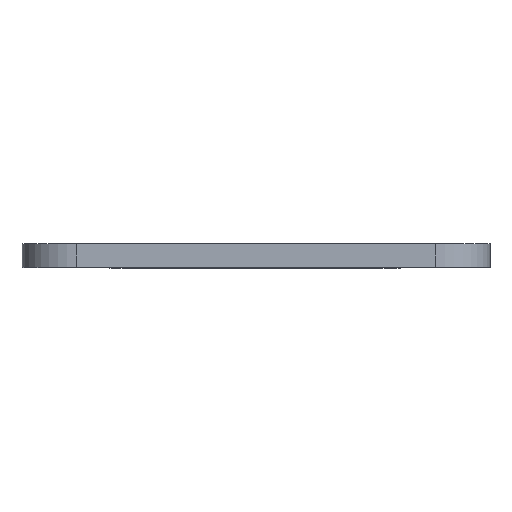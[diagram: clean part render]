
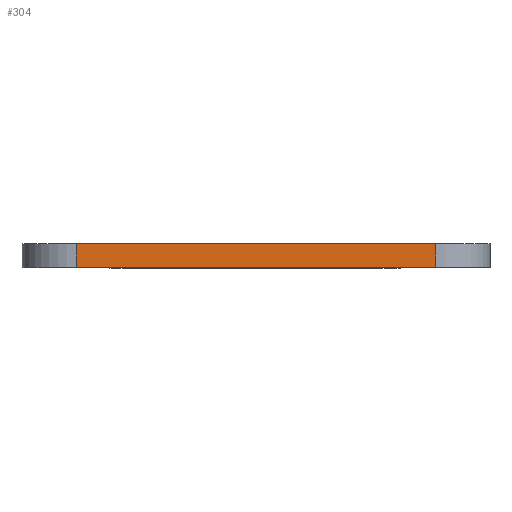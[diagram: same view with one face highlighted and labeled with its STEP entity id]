
A CAD part, top view. The second image highlights one B-rep face of the part: STEP entity #304.
In plain terms, the highlighted planar face has unit normal (0, 0, 1).
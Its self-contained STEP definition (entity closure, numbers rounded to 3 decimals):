
#77 = VECTOR ( 'NONE', #1211, 1000. ) ;
#95 = EDGE_CURVE ( 'NONE', #3197, #2057, #790, .T. ) ;
#124 = FACE_OUTER_BOUND ( 'NONE', #2588, .T. ) ;
#159 = PLANE ( 'NONE',  #2268 ) ;
#202 = VECTOR ( 'NONE', #1377, 1000. ) ;
#272 = LINE ( 'NONE', #1646, #649 ) ;
#304 = ADVANCED_FACE ( 'NONE', ( #124 ), #159, .F. ) ;
#338 = VERTEX_POINT ( 'NONE', #2555 ) ;
#649 = VECTOR ( 'NONE', #843, 1000. ) ;
#780 = LINE ( 'NONE', #956, #77 ) ;
#790 = LINE ( 'NONE', #2455, #1410 ) ;
#843 = DIRECTION ( 'NONE',  ( 0., -1., 0. ) ) ;
#908 = LINE ( 'NONE', #2682, #202 ) ;
#956 = CARTESIAN_POINT ( 'NONE',  ( -13.032, 27.592, 187.895 ) ) ;
#965 = CARTESIAN_POINT ( 'NONE',  ( -13.032, 32.592, 187.895 ) ) ;
#1211 = DIRECTION ( 'NONE',  ( 1., 0., 0. ) ) ;
#1219 = DIRECTION ( 'NONE',  ( 0., 0., -1. ) ) ;
#1377 = DIRECTION ( 'NONE',  ( 1., 0., 0. ) ) ;
#1384 = ORIENTED_EDGE ( 'NONE', *, *, #1979, .T. ) ;
#1410 = VECTOR ( 'NONE', #1947, 1000. ) ;
#1646 = CARTESIAN_POINT ( 'NONE',  ( 25.302, 32.592, 187.895 ) ) ;
#1740 = EDGE_CURVE ( 'NONE', #3197, #338, #908, .T. ) ;
#1758 = ORIENTED_EDGE ( 'NONE', *, *, #95, .T. ) ;
#1809 = ORIENTED_EDGE ( 'NONE', *, *, #2678, .F. ) ;
#1947 = DIRECTION ( 'NONE',  ( 0., -1., 0. ) ) ;
#1979 = EDGE_CURVE ( 'NONE', #2057, #3227, #780, .T. ) ;
#2057 = VERTEX_POINT ( 'NONE', #3205 ) ;
#2268 = AXIS2_PLACEMENT_3D ( 'NONE', #965, #1219, #3065 ) ;
#2354 = ORIENTED_EDGE ( 'NONE', *, *, #1740, .F. ) ;
#2455 = CARTESIAN_POINT ( 'NONE',  ( -51.366, 32.592, 187.895 ) ) ;
#2555 = CARTESIAN_POINT ( 'NONE',  ( 25.302, 32.592, 187.895 ) ) ;
#2557 = CARTESIAN_POINT ( 'NONE',  ( -51.366, 32.592, 187.895 ) ) ;
#2588 = EDGE_LOOP ( 'NONE', ( #1384, #1809, #2354, #1758 ) ) ;
#2678 = EDGE_CURVE ( 'NONE', #338, #3227, #272, .T. ) ;
#2682 = CARTESIAN_POINT ( 'NONE',  ( -13.032, 32.592, 187.895 ) ) ;
#2849 = CARTESIAN_POINT ( 'NONE',  ( 25.302, 27.592, 187.895 ) ) ;
#3065 = DIRECTION ( 'NONE',  ( -1., 0., 0. ) ) ;
#3197 = VERTEX_POINT ( 'NONE', #2557 ) ;
#3205 = CARTESIAN_POINT ( 'NONE',  ( -51.366, 27.592, 187.895 ) ) ;
#3227 = VERTEX_POINT ( 'NONE', #2849 ) ;
